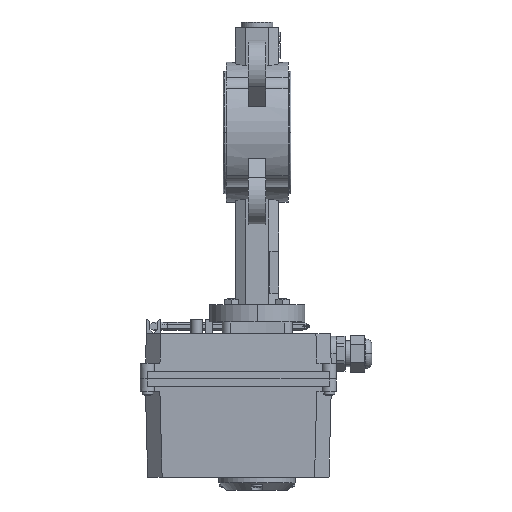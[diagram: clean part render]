
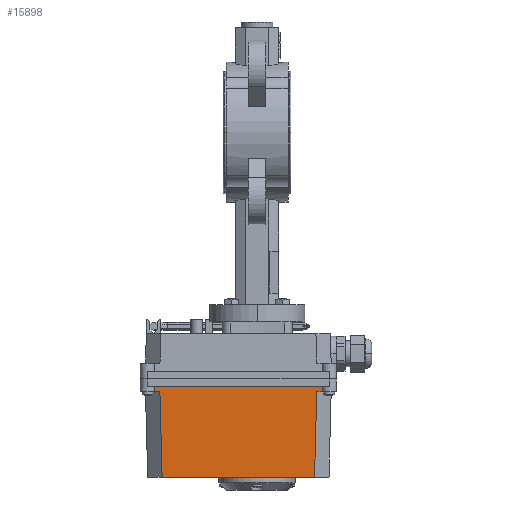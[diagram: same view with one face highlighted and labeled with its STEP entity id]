
A CAD part, left-side view. The second image highlights one B-rep face of the part: STEP entity #15898.
In plain terms, the highlighted planar face has unit normal (-1, 0, -0.026) as drawn and (0, 0.026, -1) by its records, which use the part's own axes.
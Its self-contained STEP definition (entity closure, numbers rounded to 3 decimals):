
#15075=CARTESIAN_POINT('',(58.199,9.,-42.895));
#15076=CARTESIAN_POINT('',(58.209,7.667,
-42.93));
#15077=CARTESIAN_POINT('',(58.219,6.333,
-42.965));
#15078=CARTESIAN_POINT('',(58.23,5.,-43.));
#15090=DIRECTION('',(1.,0.,0.));
#15091=VECTOR('',#15090,116.461);
#15092=CARTESIAN_POINT('',(-58.23,5.,-43.));
#15093=LINE('',#15092,#15091);
#15094=DIRECTION('',(-0.026,0.999,0.026));
#15095=VECTOR('',#15094,59.04);
#15096=CARTESIAN_POINT('',(54.392,9.,-42.895));
#15097=LINE('',#15096,#15095);
#15098=DIRECTION('',(0.026,0.999,0.026));
#15099=VECTOR('',#15098,59.04);
#15100=CARTESIAN_POINT('',(-54.392,9.,-42.895));
#15101=LINE('',#15100,#15099);
#15228=DIRECTION('',(1.,0.,0.));
#15229=VECTOR('',#15228,3.807);
#15230=CARTESIAN_POINT('',(54.392,9.,-42.895));
#15231=LINE('',#15230,#15229);
#15232=DIRECTION('',(1.,0.,0.));
#15233=VECTOR('',#15232,3.807);
#15234=CARTESIAN_POINT('',(-58.199,9.,-42.895));
#15235=LINE('',#15234,#15233);
#15257=CARTESIAN_POINT('',(-58.23,5.,-43.));
#15258=CARTESIAN_POINT('',(-58.219,6.333,
-42.965));
#15259=CARTESIAN_POINT('',(-58.209,7.667,
-42.93));
#15260=CARTESIAN_POINT('',(-58.199,9.,-42.895));
#15325=DIRECTION('',(-1.,0.,0.));
#15326=VECTOR('',#15325,105.694);
#15327=CARTESIAN_POINT('',(52.847,68.,-41.35));
#15328=LINE('',#15327,#15326);
#15782=CARTESIAN_POINT('',(52.847,68.,-41.35));
#15784=VERTEX_POINT('',#15782);
#15785=CARTESIAN_POINT('',(-52.847,68.,-41.35));
#15787=VERTEX_POINT('',#15785);
#15797=VERTEX_POINT('',#15075);
#15798=VERTEX_POINT('',#15078);
#15811=VERTEX_POINT('',#15257);
#15812=VERTEX_POINT('',#15260);
#15814=CARTESIAN_POINT('',(54.392,9.,-42.895));
#15816=VERTEX_POINT('',#15814);
#15817=CARTESIAN_POINT('',(-54.392,9.,-42.895));
#15819=VERTEX_POINT('',#15817);
#15876=CARTESIAN_POINT('',(0.,36.5,-42.175));
#15877=DIRECTION('',(0.,0.026,-1.));
#15878=DIRECTION('',(0.,-1.,-0.026));
#15879=AXIS2_PLACEMENT_3D('',#15876,#15877,#15878);
#15880=PLANE('',#15879);
#15882=ORIENTED_EDGE('',*,*,#15881,.T.);
#15883=ORIENTED_EDGE('',*,*,#15858,.F.);
#15885=ORIENTED_EDGE('',*,*,#15884,.F.);
#15887=ORIENTED_EDGE('',*,*,#15886,.T.);
#15889=ORIENTED_EDGE('',*,*,#15888,.T.);
#15891=ORIENTED_EDGE('',*,*,#15890,.F.);
#15893=ORIENTED_EDGE('',*,*,#15892,.F.);
#15895=ORIENTED_EDGE('',*,*,#15894,.F.);
#15896=EDGE_LOOP('',(#15882,#15883,#15885,#15887,#15889,#15891,#15893,#15895));
#15897=FACE_OUTER_BOUND('',#15896,.F.);
#15898=ADVANCED_FACE('',(#15897),#15880,.T.);
#15079=B_SPLINE_CURVE_WITH_KNOTS('',3,(#15075,#15076,#15077,#15078),
.UNSPECIFIED.,.F.,.F.,(4,4),(0.,1.),.UNSPECIFIED.);
#15261=B_SPLINE_CURVE_WITH_KNOTS('',3,(#15257,#15258,#15259,#15260),
.UNSPECIFIED.,.F.,.F.,(4,4),(0.,1.),.UNSPECIFIED.);
#15858=EDGE_CURVE('',#15797,#15798,#15079,.T.);
#15881=EDGE_CURVE('',#15811,#15798,#15093,.T.);
#15884=EDGE_CURVE('',#15816,#15797,#15231,.T.);
#15886=EDGE_CURVE('',#15816,#15784,#15097,.T.);
#15888=EDGE_CURVE('',#15784,#15787,#15328,.T.);
#15890=EDGE_CURVE('',#15819,#15787,#15101,.T.);
#15892=EDGE_CURVE('',#15812,#15819,#15235,.T.);
#15894=EDGE_CURVE('',#15811,#15812,#15261,.T.);
